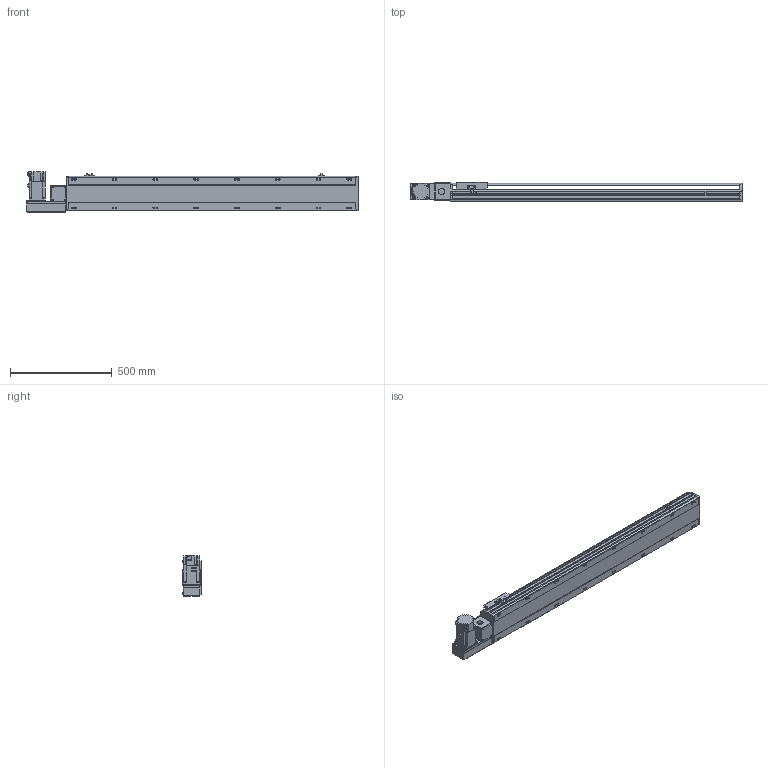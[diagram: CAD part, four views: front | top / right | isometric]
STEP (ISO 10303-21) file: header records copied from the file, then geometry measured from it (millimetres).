
FILE_DESCRIPTION( ( 'STEP AP214' ), '1' );
FILE_NAME( 'x:/temp/worker_2/temp/exporttempdir_1320_66_mZBiP/format_0/PBS170-P40-S1150-L-T75-C1-N(0).stp', '2022-06-07T06:55:14', ( 'License CC BY-ND 4.0' ), ( 'CADENAS' ), ' ', 'PARTsolutions', ' ' );
FILE_SCHEMA( ( 'AUTOMOTIVE_DESIGN { 1 0 10303 214 1 1 1 1 }' ) );
Length unit declared in the file: millimetre
Products named in the file (7): PBS170-P40-S1150-L-T75-C1-N(0); _PBS170-S1150()_body; _PBS170T-L_motors; _T75-p1; _PBS170_sliser; _PBS170_plant; _PBS170_sensor
Assembly tree (8 placements, depth 2):
  PBS170-P40-S1150-L-T75-C1-N(0)
    _PBS170-S1150()_body
    _PBS170T-L_motors
    _T75-p1
    _PBS170_sliser
    _PBS170_plant
    _PBS170_sensor  x3
Bounding box: 1628 x 97 x 197.3 mm (x, y, z)
Volume: 12059799.7 mm3; surface area: 1568894.4 mm2
Topology: 8 solids, 8 shells, 1082 faces, 2875 edges, 1874 vertices
Faces by surface type: plane 687, cylinder 339, cone 46, sphere 8, torus 2
Full cylindrical faces by diameter (mm): 3.242 x4, 4 x2, 4.4 x4, 4.5 x6, 4.917 x4, 6 x9, 6.647 x24, 7 x2, 7.5 x4, 8 x8, 8.5 x16, 10 x4, 10.5 x16, 11 x2, 30 x2, 40 x1, 70 x1
Entity records: 39740 total; most frequent: CARTESIAN_POINT 6221, DIRECTION 5300, ORIENTED_EDGE 5028, EDGE_CURVE 2514, AXIS2_PLACEMENT_3D 1837, VERTEX_POINT 1730, LINE 1626, VECTOR 1626
